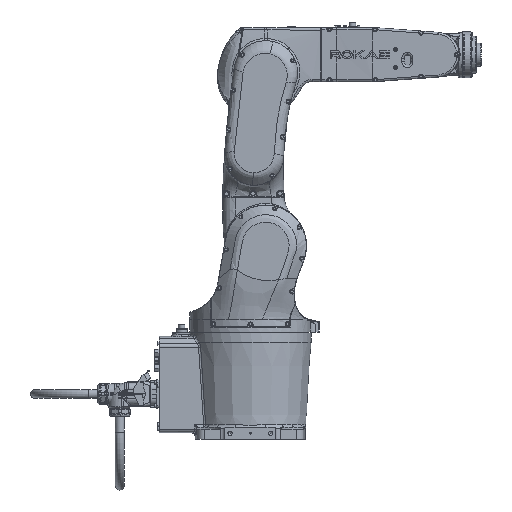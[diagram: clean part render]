
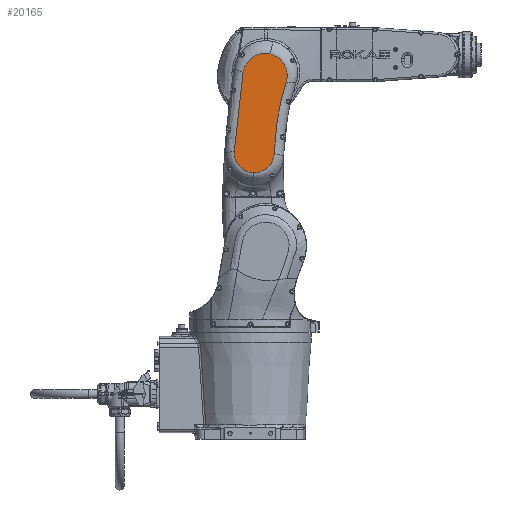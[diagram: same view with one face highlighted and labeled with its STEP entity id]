
A CAD part, front view. The second image highlights one B-rep face of the part: STEP entity #20165.
In plain terms, the highlighted planar face has unit normal (0, -1, 0).
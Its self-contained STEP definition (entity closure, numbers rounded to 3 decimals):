
#11503=B_SPLINE_CURVE_WITH_KNOTS('',3,(#148217,#148218,#148219,#148220,
#148221,#148222,#148223,#148224,#148225,#148226),.UNSPECIFIED.,.F.,.F.,
(4,2,2,2,4),(0.,0.25,0.5,0.75,1.),.UNSPECIFIED.);
#11518=B_SPLINE_CURVE_WITH_KNOTS('',3,(#152063,#152064,#152065,#152066),
 .UNSPECIFIED.,.F.,.F.,(4,4),(0.,1.),.UNSPECIFIED.);
#11527=B_SPLINE_CURVE_WITH_KNOTS('',3,(#152213,#152214,#152215,#152216,
#152217,#152218,#152219,#152220,#152221,#152222),.UNSPECIFIED.,.F.,.F.,
(4,2,2,2,4),(0.,0.25,0.5,0.75,1.),.UNSPECIFIED.);
#11542=B_SPLINE_CURVE_WITH_KNOTS('',3,(#152778,#152779,#152780,#152781),
 .UNSPECIFIED.,.F.,.F.,(4,4),(0.,1.),.UNSPECIFIED.);
#11550=B_SPLINE_CURVE_WITH_KNOTS('',3,(#152946,#152947,#152948,#152949,
#152950,#152951,#152952,#152953,#152954,#152955),.UNSPECIFIED.,.F.,.F.,
(4,2,2,2,4),(0.,0.25,0.5,0.75,1.),.UNSPECIFIED.);
#11555=B_SPLINE_CURVE_WITH_KNOTS('',3,(#153435,#153436,#153437,#153438,
#153439,#153440,#153441,#153442,#153443,#153444),.UNSPECIFIED.,.F.,.F.,
(4,2,2,2,4),(0.,0.25,0.5,0.75,1.),.UNSPECIFIED.);
#13526=PLANE('',#72629);
#15938=FACE_OUTER_BOUND('',#27062,.T.);
#20165=ADVANCED_FACE('',(#15938),#13526,.T.);
#27062=EDGE_LOOP('',(#38982,#38983,#38984,#38985,#38986,#38987));
#38982=ORIENTED_EDGE('',*,*,#61517,.T.);
#38983=ORIENTED_EDGE('',*,*,#61502,.T.);
#38984=ORIENTED_EDGE('',*,*,#61558,.T.);
#38985=ORIENTED_EDGE('',*,*,#61547,.T.);
#38986=ORIENTED_EDGE('',*,*,#61565,.T.);
#38987=ORIENTED_EDGE('',*,*,#61528,.T.);
#53423=VERTEX_POINT('',#148216);
#53424=VERTEX_POINT('',#148227);
#53438=VERTEX_POINT('',#152067);
#53447=VERTEX_POINT('',#152202);
#53466=VERTEX_POINT('',#152782);
#53467=VERTEX_POINT('',#152783);
#61502=EDGE_CURVE('',#53424,#53423,#11503,.T.);
#61517=EDGE_CURVE('',#53438,#53424,#11518,.T.);
#61528=EDGE_CURVE('',#53447,#53438,#11527,.T.);
#61547=EDGE_CURVE('',#53466,#53467,#11542,.T.);
#61558=EDGE_CURVE('',#53423,#53466,#11550,.T.);
#61565=EDGE_CURVE('',#53467,#53447,#11555,.T.);
#72629=AXIS2_PLACEMENT_3D('',#153882,#82186,#82187);
#82186=DIRECTION('',(0.,-1.,0.));
#82187=DIRECTION('',(0.,0.,1.));
#148216=CARTESIAN_POINT('',(-24.611,-115.,143.411));
#148217=CARTESIAN_POINT('',(-61.751,-115.,185.411));
#148218=CARTESIAN_POINT('',(-62.124,-115.,180.215));
#148219=CARTESIAN_POINT('',(-61.452,-115.,174.959));
#148220=CARTESIAN_POINT('',(-58.115,-115.,165.093));
#148221=CARTESIAN_POINT('',(-55.458,-115.,160.506));
#148222=CARTESIAN_POINT('',(-48.559,-115.,152.705));
#148223=CARTESIAN_POINT('',(-44.332,-115.,149.506));
#148224=CARTESIAN_POINT('',(-34.948,-115.,144.987));
#148225=CARTESIAN_POINT('',(-29.812,-115.,143.676));
#148226=CARTESIAN_POINT('',(-24.611,-115.,143.411));
#148227=CARTESIAN_POINT('',(-61.751,-115.,185.411));
#152063=CARTESIAN_POINT('',(-44.433,-115.,340.528));
#152064=CARTESIAN_POINT('',(-52.244,-115.,289.05));
#152065=CARTESIAN_POINT('',(-58.016,-115.,237.344));
#152066=CARTESIAN_POINT('',(-61.751,-115.,185.411));
#152067=CARTESIAN_POINT('',(-44.433,-115.,340.528));
#152202=CARTESIAN_POINT('',(8.392,-115.,376.398));
#152213=CARTESIAN_POINT('',(8.392,-115.,376.398));
#152214=CARTESIAN_POINT('',(2.566,-115.,377.745));
#152215=CARTESIAN_POINT('',(-3.523,-115.,377.874));
#152216=CARTESIAN_POINT('',(-15.276,-115.,375.679));
#152217=CARTESIAN_POINT('',(-20.91,-115.,373.359));
#152218=CARTESIAN_POINT('',(-30.801,-115.,366.643));
#152219=CARTESIAN_POINT('',(-35.035,-115.,362.262));
#152220=CARTESIAN_POINT('',(-41.41,-115.,352.148));
#152221=CARTESIAN_POINT('',(-43.536,-115.,346.439));
#152222=CARTESIAN_POINT('',(-44.433,-115.,340.528));
#152778=CARTESIAN_POINT('',(16.603,-115.,181.42));
#152779=CARTESIAN_POINT('',(18.023,-115.,228.742));
#152780=CARTESIAN_POINT('',(25.952,-115.,275.808));
#152781=CARTESIAN_POINT('',(40.114,-115.,320.982));
#152782=CARTESIAN_POINT('',(16.603,-115.,181.42));
#152783=CARTESIAN_POINT('',(40.114,-115.,320.982));
#152946=CARTESIAN_POINT('',(-24.611,-115.,143.411));
#152947=CARTESIAN_POINT('',(-19.409,-115.,143.146));
#152948=CARTESIAN_POINT('',(-14.168,-115.,143.928));
#152949=CARTESIAN_POINT('',(-4.374,-115.,147.471));
#152950=CARTESIAN_POINT('',(0.157,-115.,150.223));
#152951=CARTESIAN_POINT('',(7.812,-115.,157.284));
#152952=CARTESIAN_POINT('',(10.922,-115.,161.577));
#152953=CARTESIAN_POINT('',(15.244,-115.,171.053));
#152954=CARTESIAN_POINT('',(16.447,-115.,176.215));
#152955=CARTESIAN_POINT('',(16.603,-115.,181.42));
#153435=CARTESIAN_POINT('',(40.114,-115.,320.982));
#153436=CARTESIAN_POINT('',(41.903,-115.,326.688));
#153437=CARTESIAN_POINT('',(42.498,-115.,332.75));
#153438=CARTESIAN_POINT('',(41.208,-115.,344.636));
#153439=CARTESIAN_POINT('',(39.327,-115.,350.431));
#153440=CARTESIAN_POINT('',(33.387,-115.,360.807));
#153441=CARTESIAN_POINT('',(29.343,-115.,365.364));
#153442=CARTESIAN_POINT('',(19.747,-115.,372.495));
#153443=CARTESIAN_POINT('',(14.217,-115.,375.052));
#153444=CARTESIAN_POINT('',(8.392,-115.,376.398));
#153882=CARTESIAN_POINT('',(-1.409,-115.,334.));
